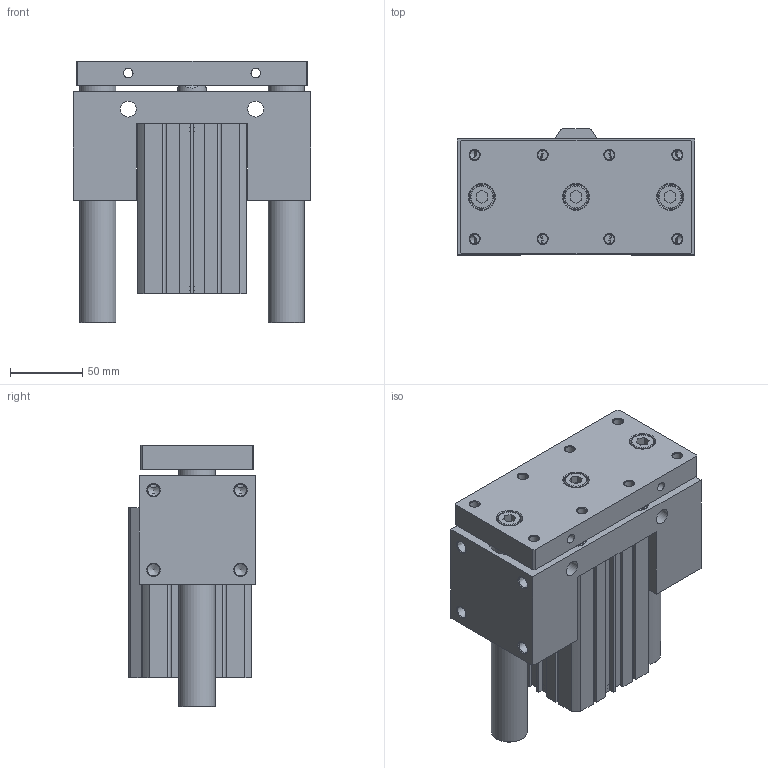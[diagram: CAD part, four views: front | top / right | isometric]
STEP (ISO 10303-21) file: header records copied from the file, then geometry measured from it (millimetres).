
FILE_DESCRIPTION((''),'2;1');
FILE_NAME('I:\3D電子目錄\氣缸\JCB\JCB\JCB63\JCB63x85.stp','2007-09-01T15:20:04',('Administrator'),(''),'Autodesk Inventor 11','Autodesk Inventor 11','');
FILE_SCHEMA(('AUTOMOTIVE_DESIGN { 1 0 10303 214 1 1 1 1 }'));
Length unit declared in the file: millimetre
Products named in the file (1): JCB63
Bounding box: 164 x 87 x 180.5 mm (x, y, z)
Volume: 1517214.7 mm3; surface area: 227579.5 mm2
Topology: 3 solids, 5 shells, 343 faces, 829 edges, 538 vertices
Faces by surface type: plane 186, cylinder 62, cone 47, bspline 40, torus 8
Full cylindrical faces by diameter (mm): 3 x2, 6.8 x4, 8.376 x4, 11 x8, 13 x4, 14 x4, 16 x3, 17.5 x3, 20 x1, 21 x1, 25 x2, 28 x2, 40 x1, 47 x1, 65 x4, 68 x2
Entity records: 10008 total; most frequent: CARTESIAN_POINT 2670, DIRECTION 1474, ORIENTED_EDGE 1320, EDGE_CURVE 660, EDGE_LOOP 554, AXIS2_PLACEMENT_3D 532, VERTEX_POINT 498, VECTOR 410
